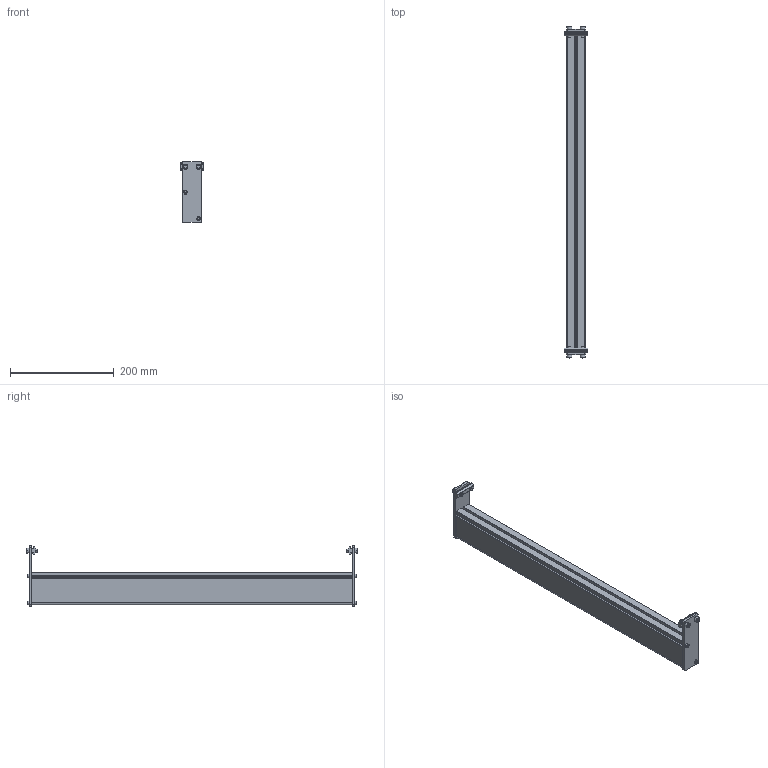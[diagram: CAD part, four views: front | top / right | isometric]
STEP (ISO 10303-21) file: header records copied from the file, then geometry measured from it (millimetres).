
FILE_DESCRIPTION((''),'2;1');
FILE_NAME('350974-24_ASM','2023-03-22T',('jenni.wallner'),(''),'PRO/ENGINEER BY PARAMETRIC TECHNOLOGY CORPORATION, 2012420','PRO/ENGINEER BY PARAMETRIC TECHNOLOGY CORPORATION, 2012420','');
FILE_SCHEMA(('CONFIG_CONTROL_DESIGN'));
Length unit declared in the file: inch
Products named in the file (6): 350979-02433; 350978; 200830M; 920616M; 920416M; 350974-24_ASM
Assembly tree (13 placements, depth 2):
  350974-24_ASM
    350979-02433
    350978  x2
    200830M  x2
    920616M  x4
    920416M  x4
Bounding box: 44.45 x 639.08 x 116.98 mm (x, y, z)
Volume: 537780 mm3; surface area: 342903.9 mm2
Topology: 13 solids, 17 shells, 342 faces, 868 edges, 568 vertices
Faces by surface type: plane 168, cylinder 142, cone 32
Entity records: 5990 total; most frequent: DIRECTION 1076, CARTESIAN_POINT 1015, ORIENTED_EDGE 972, EDGE_CURVE 490, AXIS2_PLACEMENT_3D 385, VERTEX_POINT 324, VECTOR 306, LINE 306
